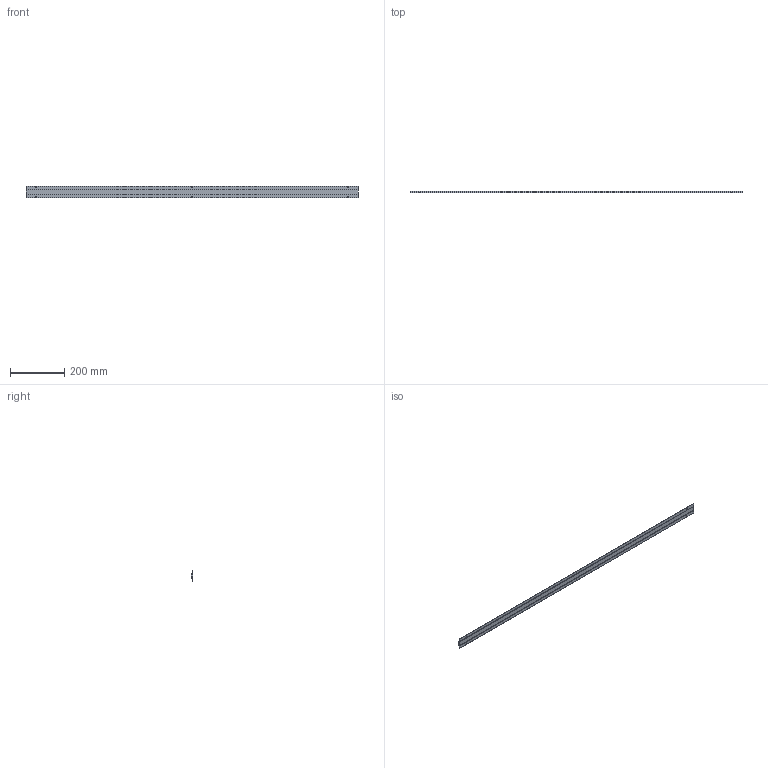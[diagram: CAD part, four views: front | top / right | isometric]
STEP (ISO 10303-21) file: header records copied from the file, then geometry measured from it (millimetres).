
FILE_DESCRIPTION(/* description */ (''),/* implementation_level */ '2;1');
FILE_NAME(/* name */ 'MAG-STRP-0048-CUST-WRAP.step',/* time_stamp */ '2024-09-18T08:10:24-05:00',/* author */ (''),/* organization */ (''),/* preprocessor_version */ 'ST-DEVELOPER v20',/* originating_system */ 'Autodesk Translation Framework v13.14.0.145',/* authorisation */ '');
FILE_SCHEMA (('AUTOMOTIVE_DESIGN { 1 0 10303 214 3 1 1 }','PROCESS_PLANNING_SCHEMA'));
Length unit declared in the file: millimetre
Products named in the file (1): MAG-STRP-0048-CUST-WRAP
Bounding box: 1219.2 x 6.35 x 42.93 mm (x, y, z)
Volume: 169102.3 mm3; surface area: 117958.2 mm2
Topology: 1 solids, 1 shells, 476 faces, 1296 edges, 864 vertices
Faces by surface type: plane 268, bspline 194, cylinder 14
Full cylindrical faces by diameter (mm): 3.962 x6
Entity records: 16725 total; most frequent: CARTESIAN_POINT 5935, ORIENTED_EDGE 2592, DIRECTION 1502, EDGE_CURVE 1296, LINE 880, VECTOR 880, VERTEX_POINT 864, EDGE_LOOP 530
